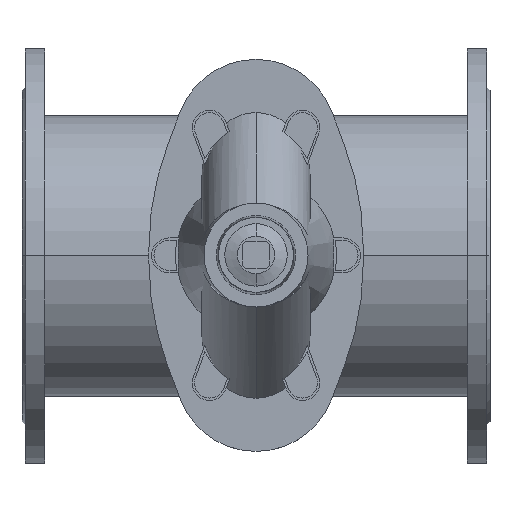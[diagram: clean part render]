
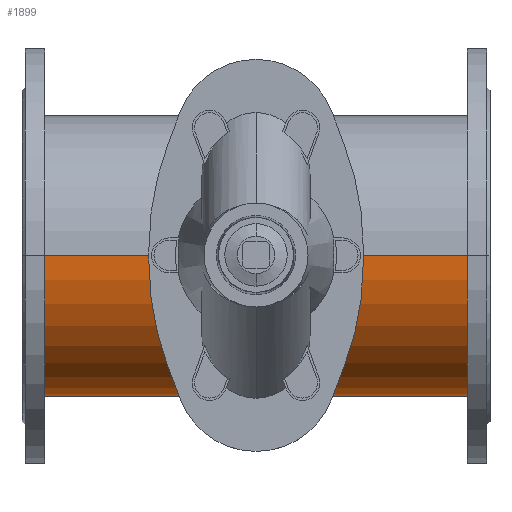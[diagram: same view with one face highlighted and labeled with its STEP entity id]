
A CAD part, top view. The second image highlights one B-rep face of the part: STEP entity #1899.
In plain terms, the highlighted cylindrical face has radius 135 mm (diameter 270 mm), a partial arc.
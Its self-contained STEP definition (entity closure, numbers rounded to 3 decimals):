
#1899=ADVANCED_FACE('',(#3627),#3628,.T.);
#3627=FACE_OUTER_BOUND('',#5599,.T.);
#3628=CYLINDRICAL_SURFACE('',#5600,135.0);
#5599=EDGE_LOOP('',(#9487,#9488,#9489,#9490));
#5600=AXIS2_PLACEMENT_3D('',#9491,#9492,#9493);
#9487=ORIENTED_EDGE('',*,*,#11469,.F.);
#9488=ORIENTED_EDGE('',*,*,#11928,.T.);
#9489=ORIENTED_EDGE('',*,*,#11470,.F.);
#9490=ORIENTED_EDGE('',*,*,#10537,.T.);
#9491=CARTESIAN_POINT('',(47.0,0.0,0.));
#9492=DIRECTION('',(1.0,0.0,0.));
#9493=DIRECTION('',(0.,0.0,1.0));
#10537=EDGE_CURVE('',#12443,#12442,#12445,.T.);
#11469=EDGE_CURVE('',#13902,#12442,#13903,.T.);
#11470=EDGE_CURVE('',#12443,#13904,#13905,.T.);
#11928=EDGE_CURVE('',#13902,#13904,#14466,.T.);
#12442=VERTEX_POINT('',#15087);
#12443=VERTEX_POINT('',#15088);
#12445=CIRCLE('',#15090,135.0);
#13902=VERTEX_POINT('',#16946);
#13903=LINE('',#16947,#16948);
#13904=VERTEX_POINT('',#16949);
#13905=LINE('',#16950,#16951);
#14466=CIRCLE('',#17667,135.0);
#15087=CARTESIAN_POINT('',(453.0,0.0,135.0));
#15088=CARTESIAN_POINT('',(453.0,0.,-135.0));
#15090=AXIS2_PLACEMENT_3D('',#18119,#18120,#18121);
#16946=CARTESIAN_POINT('',(47.0,0.0,135.0));
#16947=CARTESIAN_POINT('',(47.0,0.,135.0));
#16948=VECTOR('',#19445,1.0);
#16949=CARTESIAN_POINT('',(47.0,0.,-135.0));
#16950=CARTESIAN_POINT('',(47.0,0.,-135.0));
#16951=VECTOR('',#19446,1.0);
#17667=AXIS2_PLACEMENT_3D('',#19989,#19990,#19991);
#18119=CARTESIAN_POINT('',(453.0,0.0,0.));
#18120=DIRECTION('',(-1.0,0.0,0.));
#18121=DIRECTION('',(0.,0.0,1.0));
#19445=DIRECTION('',(1.0,0.0,0.));
#19446=DIRECTION('',(-1.0,-0.0,0.));
#19989=CARTESIAN_POINT('',(47.0,0.0,0.));
#19990=DIRECTION('',(1.0,0.0,0.));
#19991=DIRECTION('',(0.,0.0,1.0));
